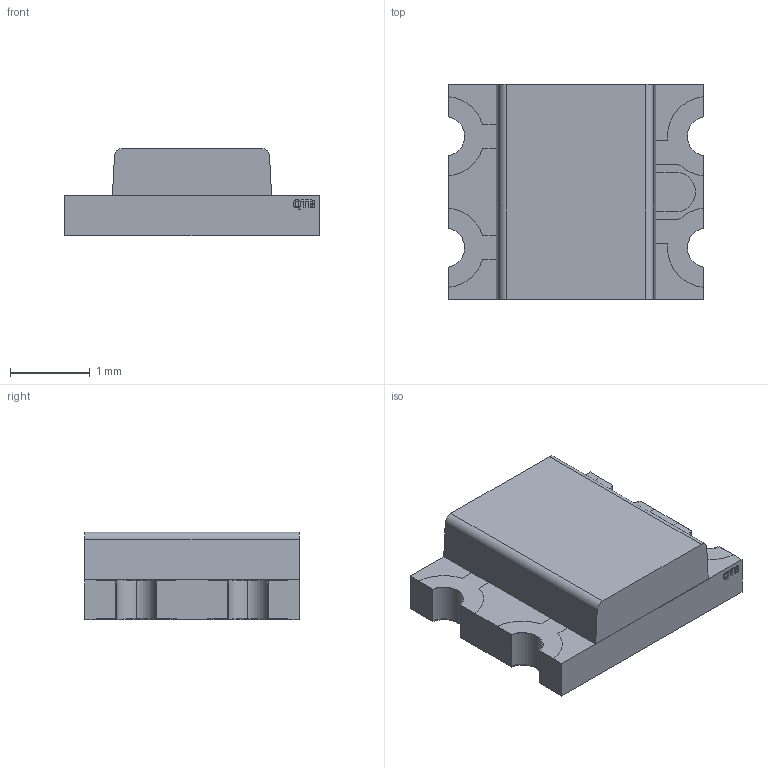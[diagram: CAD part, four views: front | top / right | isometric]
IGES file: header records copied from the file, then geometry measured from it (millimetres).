
Start section: Data from Parasolid IGES Translator 23.1.110, Copyright(c) 2006 Siemens PLM Software. All Rights Reserved.
Global section: file name: 5fab0d01fb24ef1079061cc4.iges; native system: By Siemens PLM Incorporated; preprocessor: XPlus GENERIC/IGES 23.1.110; author: Noname; organization: Noname; date: 20201110.215826; units: metre
Bounding box: 3.2 x 2.7 x 1.1 mm (x, y, z)
Surface area: 49.3 mm2 (no closed solid volume)
Topology: 0 solids, 0 shells, 200 faces, 1076 edges, 1076 vertices
Faces by surface type: extrusion 161, revolution 39
